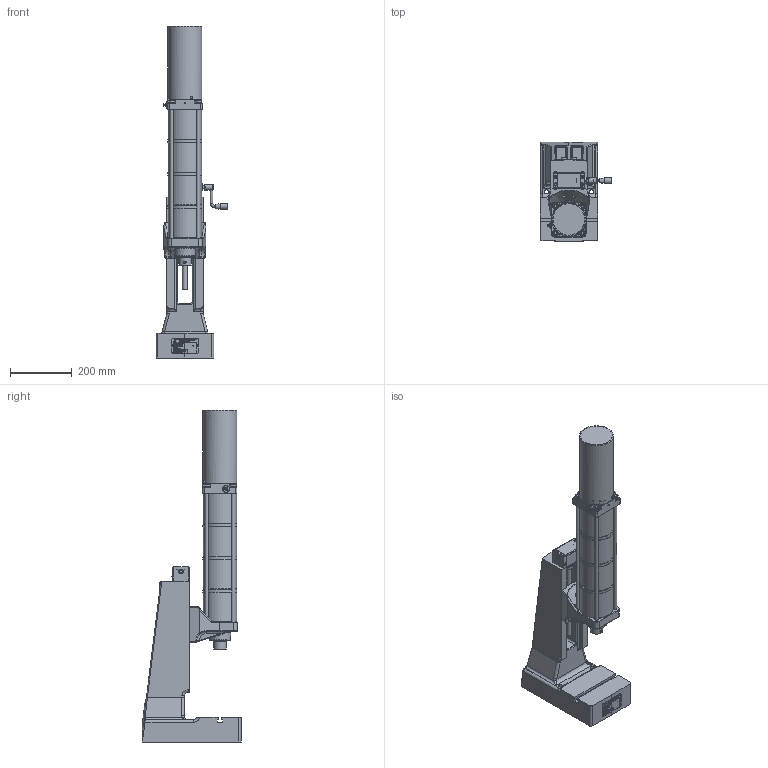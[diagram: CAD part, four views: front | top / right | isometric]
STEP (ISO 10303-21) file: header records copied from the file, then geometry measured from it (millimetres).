
FILE_DESCRIPTION(/* description */ ('Bausatz Ständer T460 N HV-OST'),/* implementation_level */ '2;1');
FILE_NAME(/* name */ 'B:\02_CAD_oeffentlich\CAD_3D_oeffentlich_step\Druckluftpresse\DRP_1700_060_100.stp',/* time_stamp */ '2017-08-25T08:50:51+02:00',/* author */ ('Finsterle'),/* organization */ (''),/* preprocessor_version */ 'ST-DEVELOPER v16.1',/* originating_system */ 'Autodesk Inventor 2016',/* authorisation */ '');
FILE_SCHEMA (('AUTOMOTIVE_DESIGN { 1 0 10303 214 3 1 1 }'));
Products named in the file (5): ENG-000341-1_V; ENG-001109_V; HBF-000760; ENG-000755; HBF-001061_V
Assembly tree (5 placements, depth 2):
  HBF-001061_V
    ENG-000341-1_V
    ENG-001109_V
    HBF-000760
    ENG-000755  x2
Bounding box: 231.79 x 321.2 x 1073.4 mm (x, y, z)
Volume: 10037032.3 mm3; surface area: 1469547.1 mm2
Topology: 6 solids, 29 shells, 7849 faces, 21167 edges, 13802 vertices
Faces by surface type: plane 4664, bspline 2170, cylinder 545, cone 274, torus 120, sphere 76
Full cylindrical faces by diameter (mm): 1 x1, 2 x1, 2.459 x2, 3 x9, 3.242 x7, 3.5 x2, 3.65 x4, 4 x10, 4.134 x1, 4.5 x4, 4.917 x6, 5 x3, 6 x4, 6.2 x4, 6.5 x2, 6.647 x1, 8 x7, 8.4 x1, 8.5 x1, 10 x12, 10.02 x1, 10.106 x2, 10.5 x12, 11.8 x2, 12 x7, 13 x8, 13.5 x4, 14 x3, 14.376 x2, 14.95 x3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
Entity records: 267389 total; most frequent: CARTESIAN_POINT 80081, ORIENTED_EDGE 40892, DIRECTION 28928, EDGE_CURVE 20434, LINE 14076, VECTOR 14076, VERTEX_POINT 13641, EDGE_LOOP 8928
